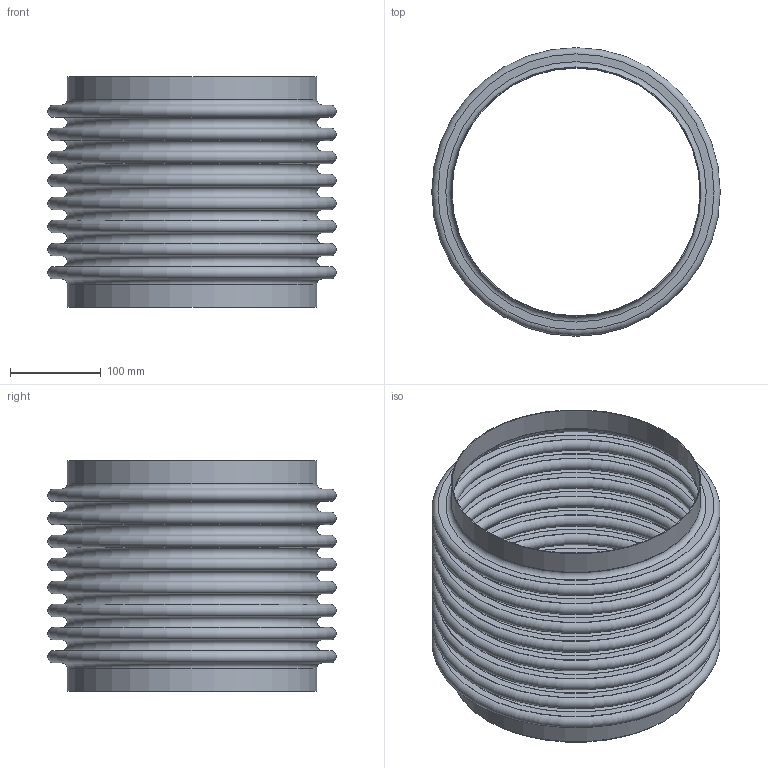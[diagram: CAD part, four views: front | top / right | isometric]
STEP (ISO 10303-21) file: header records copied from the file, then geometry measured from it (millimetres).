
FILE_DESCRIPTION(/* description */ (''),/* implementation_level */ '2;1');
FILE_NAME(/* name */ 'US-10-8-85S.stp',/* time_stamp */ '2026-07-21T11:13:17-05:00',/* author */ ('linda'),/* organization */ (''),/* preprocessor_version */ 'ST-DEVELOPER v20.1',/* originating_system */ 'Autodesk Inventor 2026',/* authorisation */ '');
FILE_SCHEMA (('AUTOMOTIVE_DESIGN { 1 0 10303 214 3 1 1 }'));
Length unit declared in the file: inch
Products named in the file (1): Part3
Bounding box: 317.5 x 317.5 x 254 mm (x, y, z)
Volume: 427582.6 mm3; surface area: 939942.2 mm2
Topology: 3 solids, 3 shells, 76 faces, 114 edges, 77 vertices
Faces by surface type: plane 38, torus 34, cylinder 4
Full cylindrical faces by diameter (mm): 273.05 x2, 274.879 x2
Entity records: 1899 total; most frequent: DIRECTION 378, CARTESIAN_POINT 268, ORIENTED_EDGE 228, AXIS2_PLACEMENT_3D 187, EDGE_LOOP 114, EDGE_CURVE 114, CIRCLE 110, STYLED_ITEM 79
